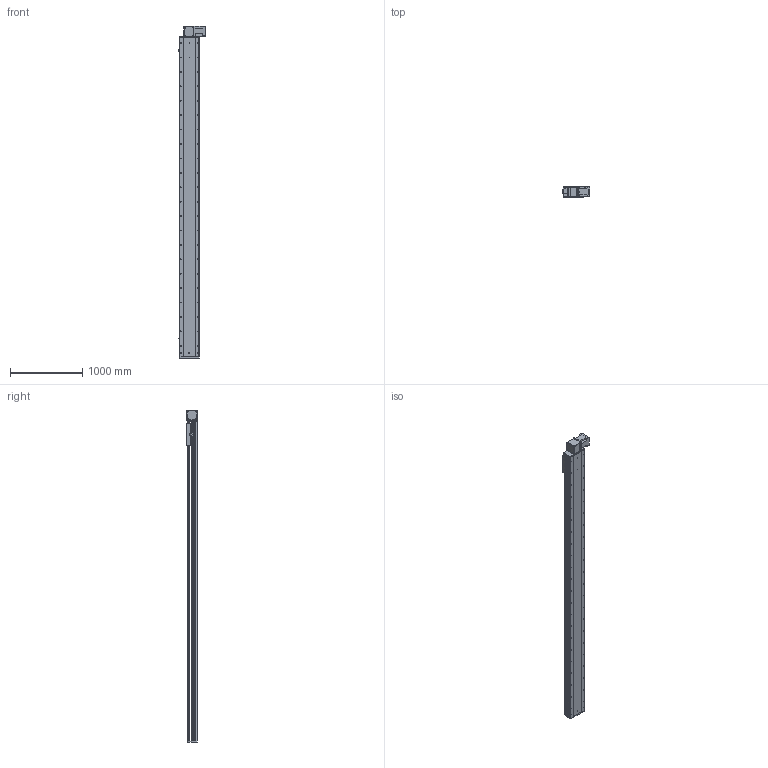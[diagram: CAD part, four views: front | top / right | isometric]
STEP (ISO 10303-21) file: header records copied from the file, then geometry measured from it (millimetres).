
FILE_DESCRIPTION (( 'STEP AP214' ), '1' );
FILE_NAME ('RTB28S-XX-4000-BL-M100-XX-C4.STEP', '2025-12-22T02:42:29', ( '' ), ( '' ), 'SwSTEP 2.0', 'SolidWorks 2018', '' );
FILE_SCHEMA (( 'AUTOMOTIVE_DESIGN' ));
Length unit declared in the file: millimetre
Products named in the file (4): RTB28S-GY-008^RTB28S-XX-XX-BL-M100-XX-C4; RTB28S-GY-004^RTB28S-XX-XX-BL-M100-XX-C4; RTB28S-XX-4000-BL-M100-XX-C4; RTB28S-GY-011^RTB28S-XX-XX-BL-M100-XX-C4
Assembly tree (3 placements, depth 2):
  RTB28S-XX-4000-BL-M100-XX-C4
    RTB28S-GY-011^RTB28S-XX-XX-BL-M100-XX-C4
    RTB28S-GY-004^RTB28S-XX-XX-BL-M100-XX-C4
    RTB28S-GY-008^RTB28S-XX-XX-BL-M100-XX-C4
Bounding box: 380.7 x 145 x 4607 mm (x, y, z)
Volume: 76856315.3 mm3; surface area: 7125191.6 mm2
Topology: 3 solids, 4 shells, 938 faces, 2538 edges, 1628 vertices
Faces by surface type: cylinder 479, plane 375, cone 80, torus 4
Entity records: 36803 total; most frequent: CARTESIAN_POINT 7252, DIRECTION 5412, ORIENTED_EDGE 5012, EDGE_CURVE 2506, AXIS2_PLACEMENT_3D 2016, VERTEX_POINT 1628, LINE 1380, VECTOR 1380
